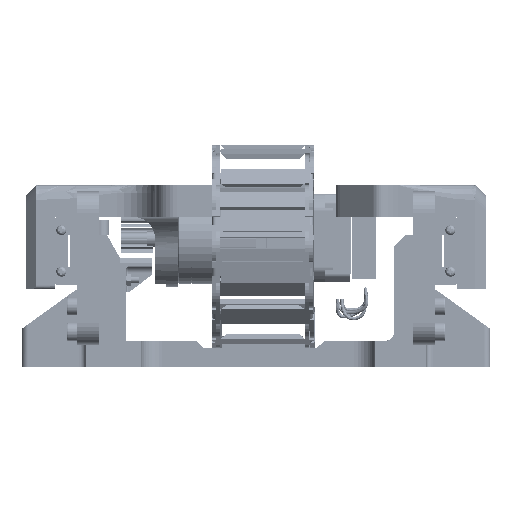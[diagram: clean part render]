
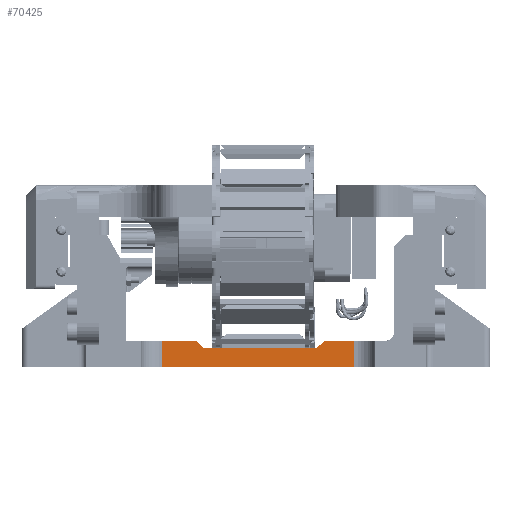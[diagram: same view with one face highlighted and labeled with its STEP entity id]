
A CAD part, front view. The second image highlights one B-rep face of the part: STEP entity #70425.
In plain terms, the highlighted planar face has unit normal (0, -1, 0).
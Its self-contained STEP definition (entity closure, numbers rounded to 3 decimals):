
#973 = EDGE_CURVE ( 'NONE', #122596, #195842, #138914, .T. ) ;
#10303 = CARTESIAN_POINT ( 'NONE',  ( 221.366, 106.377, 170.779 ) ) ;
#15280 = CARTESIAN_POINT ( 'NONE',  ( 221.366, 106.377, 182.779 ) ) ;
#20319 = EDGE_CURVE ( 'NONE', #81972, #65037, #146276, .T. ) ;
#22896 = DIRECTION ( 'NONE',  ( 0., 0., 1. ) ) ;
#24441 = LINE ( 'NONE', #186236, #28576 ) ;
#24676 = CARTESIAN_POINT ( 'NONE',  ( 240.817, 106.377, 179.779 ) ) ;
#26156 = LINE ( 'NONE', #10303, #138406 ) ;
#28576 = VECTOR ( 'NONE', #199954, 1000. ) ;
#29288 = AXIS2_PLACEMENT_3D ( 'NONE', #108543, #160063, #63919 ) ;
#30088 = LINE ( 'NONE', #93695, #178034 ) ;
#35517 = EDGE_CURVE ( 'NONE', #122596, #158939, #186734, .T. ) ;
#36207 = CARTESIAN_POINT ( 'NONE',  ( 297.366, 106.377, 182.779 ) ) ;
#38509 = DIRECTION ( 'NONE',  ( -1., 0., 0. ) ) ;
#42572 = VECTOR ( 'NONE', #109226, 1000. ) ;
#44945 = EDGE_LOOP ( 'NONE', ( #175057, #198799, #83521, #121048, #51363, #74453, #178439, #86897 ) ) ;
#51325 = CARTESIAN_POINT ( 'NONE',  ( 311.366, 106.377, 182.779 ) ) ;
#51363 = ORIENTED_EDGE ( 'NONE', *, *, #180780, .T. ) ;
#58235 = CARTESIAN_POINT ( 'NONE',  ( 311.366, 106.377, 170.779 ) ) ;
#61550 = DIRECTION ( 'NONE',  ( -1., 0., 0. ) ) ;
#63919 = DIRECTION ( 'NONE',  ( 1., 0., 0. ) ) ;
#65037 = VERTEX_POINT ( 'NONE', #205033 ) ;
#70425 = ADVANCED_FACE ( 'NONE', ( #186646 ), #139150, .F. ) ;
#74453 = ORIENTED_EDGE ( 'NONE', *, *, #152746, .T. ) ;
#74833 = DIRECTION ( 'NONE',  ( 0., 0., -1. ) ) ;
#76395 = CARTESIAN_POINT ( 'NONE',  ( 221.366, 106.377, 170.779 ) ) ;
#78261 = CARTESIAN_POINT ( 'NONE',  ( 293.915, 106.377, 179.779 ) ) ;
#81972 = VERTEX_POINT ( 'NONE', #24676 ) ;
#83521 = ORIENTED_EDGE ( 'NONE', *, *, #973, .F. ) ;
#86897 = ORIENTED_EDGE ( 'NONE', *, *, #20319, .T. ) ;
#88542 = EDGE_CURVE ( 'NONE', #65037, #125762, #197183, .T. ) ;
#93577 = VECTOR ( 'NONE', #22896, 1000. ) ;
#93695 = CARTESIAN_POINT ( 'NONE',  ( 297.366, 106.377, 182.779 ) ) ;
#97714 = CARTESIAN_POINT ( 'NONE',  ( 237.366, 106.377, 182.779 ) ) ;
#107183 = CARTESIAN_POINT ( 'NONE',  ( 240.817, 106.377, 179.779 ) ) ;
#108543 = CARTESIAN_POINT ( 'NONE',  ( 321.366, 106.377, 170.779 ) ) ;
#109226 = DIRECTION ( 'NONE',  ( -1., 0., 0. ) ) ;
#109653 = DIRECTION ( 'NONE',  ( -0.755, 0., -0.656 ) ) ;
#110705 = VECTOR ( 'NONE', #61550, 1000. ) ;
#114532 = EDGE_CURVE ( 'NONE', #185787, #81972, #156591, .T. ) ;
#121048 = ORIENTED_EDGE ( 'NONE', *, *, #35517, .T. ) ;
#121406 = VERTEX_POINT ( 'NONE', #36207 ) ;
#122596 = VERTEX_POINT ( 'NONE', #58235 ) ;
#125762 = VERTEX_POINT ( 'NONE', #15280 ) ;
#130473 = DIRECTION ( 'NONE',  ( -0.755, 0., 0.656 ) ) ;
#137750 = VECTOR ( 'NONE', #130473, 1000. ) ;
#138406 = VECTOR ( 'NONE', #74833, 1000. ) ;
#138914 = LINE ( 'NONE', #139937, #110705 ) ;
#139150 = PLANE ( 'NONE',  #29288 ) ;
#139937 = CARTESIAN_POINT ( 'NONE',  ( 321.366, 106.377, 170.779 ) ) ;
#146276 = LINE ( 'NONE', #97714, #137750 ) ;
#151924 = CARTESIAN_POINT ( 'NONE',  ( 311.366, 106.377, 182.779 ) ) ;
#152746 = EDGE_CURVE ( 'NONE', #121406, #185787, #30088, .T. ) ;
#156591 = LINE ( 'NONE', #107183, #42572 ) ;
#158939 = VERTEX_POINT ( 'NONE', #51325 ) ;
#160063 = DIRECTION ( 'NONE',  ( 0., 1., 0. ) ) ;
#165486 = CARTESIAN_POINT ( 'NONE',  ( 321.366, 106.377, 182.779 ) ) ;
#175057 = ORIENTED_EDGE ( 'NONE', *, *, #88542, .T. ) ;
#178034 = VECTOR ( 'NONE', #109653, 1000. ) ;
#178439 = ORIENTED_EDGE ( 'NONE', *, *, #114532, .T. ) ;
#178892 = VECTOR ( 'NONE', #38509, 1000. ) ;
#180780 = EDGE_CURVE ( 'NONE', #158939, #121406, #24441, .T. ) ;
#184375 = EDGE_CURVE ( 'NONE', #125762, #195842, #26156, .T. ) ;
#185787 = VERTEX_POINT ( 'NONE', #78261 ) ;
#186236 = CARTESIAN_POINT ( 'NONE',  ( 321.366, 106.377, 182.779 ) ) ;
#186646 = FACE_OUTER_BOUND ( 'NONE', #44945, .T. ) ;
#186734 = LINE ( 'NONE', #151924, #93577 ) ;
#195842 = VERTEX_POINT ( 'NONE', #76395 ) ;
#197183 = LINE ( 'NONE', #165486, #178892 ) ;
#198799 = ORIENTED_EDGE ( 'NONE', *, *, #184375, .T. ) ;
#199954 = DIRECTION ( 'NONE',  ( -1., 0., 0. ) ) ;
#205033 = CARTESIAN_POINT ( 'NONE',  ( 237.366, 106.377, 182.779 ) ) ;
